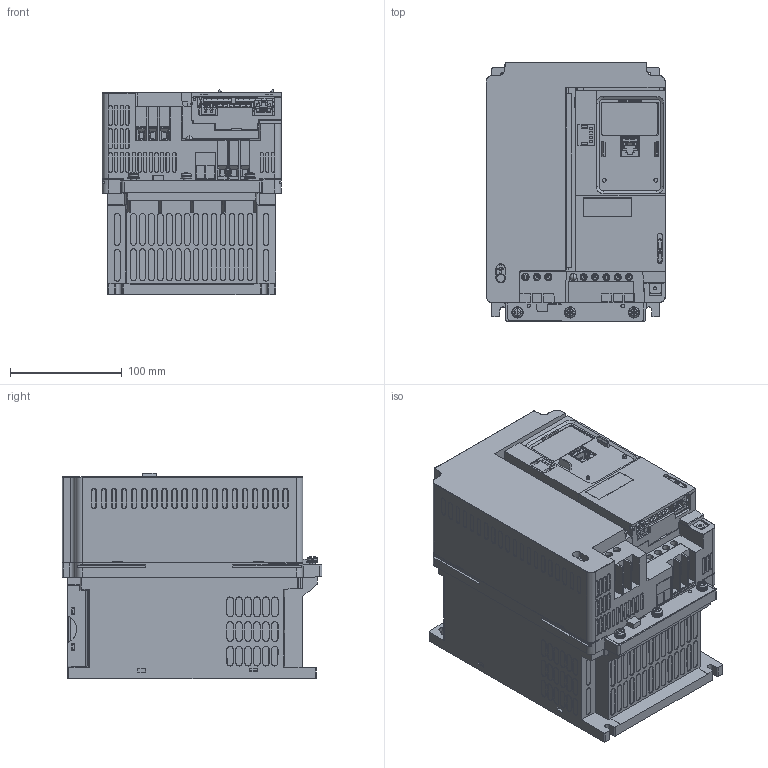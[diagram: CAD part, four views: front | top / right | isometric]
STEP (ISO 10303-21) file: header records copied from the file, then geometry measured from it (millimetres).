
FILE_DESCRIPTION(/* description */ (''),/* implementation_level */ '2;1');
FILE_NAME(/* name */ 'ATH600_S2A_IP00_3Dsimpl.stp',/* time_stamp */ '2026-02-03T15:00:14+01:00',/* author */ (''),/* organization */ (''),/* preprocessor_version */ 'ST-DEVELOPER v16.7',/* originating_system */ 'SIEMENS PLM Software NX 12.0',/* authorisation */ '');
FILE_SCHEMA (('AUTOMOTIVE_DESIGN { 1 0 10303 214 3 1 1 1 }'));
Products named in the file (1): ATH600_S2A_IP00_3Dsimpl_step
Bounding box: 160.5 x 232 x 183.34 mm (x, y, z)
Volume: 5371053.9 mm3; surface area: 384348.6 mm2
Topology: 5 solids, 36 shells, 5322 faces, 14233 edges, 9283 vertices
Faces by surface type: plane 3688, cylinder 831, cone 492, bspline 214, torus 85, sphere 12
Entity records: 188857 total; most frequent: CARTESIAN_POINT 56230, ORIENTED_EDGE 28448, DIRECTION 25894, EDGE_CURVE 14224, LINE 10348, VECTOR 10348, VERTEX_POINT 9295, AXIS2_PLACEMENT_3D 7773
